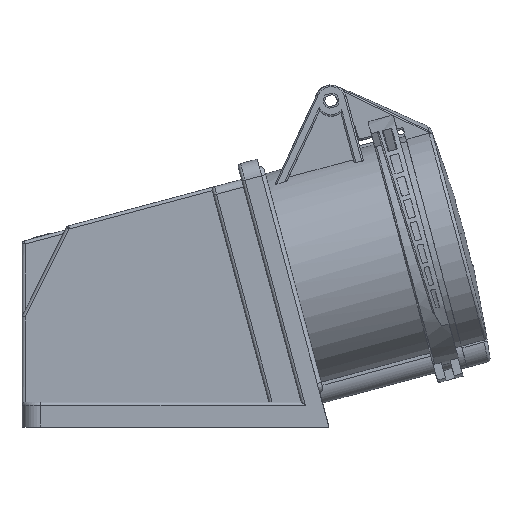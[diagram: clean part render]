
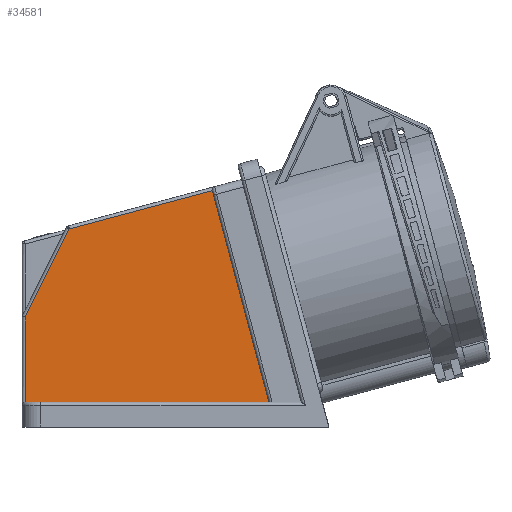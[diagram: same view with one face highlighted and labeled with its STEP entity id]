
A CAD part, left-side view. The second image highlights one B-rep face of the part: STEP entity #34581.
In plain terms, the highlighted planar face has unit normal (-1, 0, 0).
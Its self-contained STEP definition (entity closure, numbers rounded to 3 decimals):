
#20760 = VERTEX_POINT('',#20761);
#20761 = CARTESIAN_POINT('',(-28.5,-30.024,8.));
#20767 = EDGE_CURVE('',#20760,#20768,#20770,.T.);
#20768 = VERTEX_POINT('',#20769);
#20769 = CARTESIAN_POINT('',(-28.5,48.25,8.));
#20770 = LINE('',#20771,#20772);
#20771 = CARTESIAN_POINT('',(-28.5,-30.024,8.));
#20772 = VECTOR('',#20773,1.);
#20773 = DIRECTION('',(0.,1.,0.));
#20959 = EDGE_CURVE('',#20960,#20760,#20962,.T.);
#20960 = VERTEX_POINT('',#20961);
#20961 = CARTESIAN_POINT('',(-28.5,-11.83,75.901));
#20962 = LINE('',#20963,#20964);
#20963 = CARTESIAN_POINT('',(-28.5,-11.83,75.901));
#20964 = VECTOR('',#20965,1.);
#20965 = DIRECTION('',(0.,-0.259,-0.966));
#21460 = VERTEX_POINT('',#21461);
#21461 = CARTESIAN_POINT('',(-28.5,34.069,63.603));
#21483 = EDGE_CURVE('',#20960,#21460,#21484,.T.);
#21484 = LINE('',#21485,#21486);
#21485 = CARTESIAN_POINT('',(-28.5,-11.83,75.901));
#21486 = VECTOR('',#21487,1.);
#21487 = DIRECTION('',(0.,0.966,-0.259));
#34507 = EDGE_CURVE('',#21460,#34508,#34510,.T.);
#34508 = VERTEX_POINT('',#34509);
#34509 = CARTESIAN_POINT('',(-28.5,48.25,35.333));
#34510 = LINE('',#34511,#34512);
#34511 = CARTESIAN_POINT('',(-28.5,34.069,63.603));
#34512 = VECTOR('',#34513,1.);
#34513 = DIRECTION('',(0.,0.448,-0.894));
#34569 = EDGE_CURVE('',#34508,#20768,#34570,.T.);
#34570 = LINE('',#34571,#34572);
#34571 = CARTESIAN_POINT('',(-28.5,48.25,35.333));
#34572 = VECTOR('',#34573,1.);
#34573 = DIRECTION('',(0.,0.,-1.));
#34581 = ADVANCED_FACE('',(#34582),#34589,.F.);
#34582 = FACE_BOUND('',#34583,.T.);
#34583 = EDGE_LOOP('',(#34584,#34585,#34586,#34587,#34588));
#34584 = ORIENTED_EDGE('',*,*,#20767,.F.);
#34585 = ORIENTED_EDGE('',*,*,#20959,.F.);
#34586 = ORIENTED_EDGE('',*,*,#21483,.T.);
#34587 = ORIENTED_EDGE('',*,*,#34507,.T.);
#34588 = ORIENTED_EDGE('',*,*,#34569,.T.);
#34589 = PLANE('',#34590);
#34590 = AXIS2_PLACEMENT_3D('',#34591,#34592,#34593);
#34591 = CARTESIAN_POINT('',(-28.5,0.,0.));
#34592 = DIRECTION('',(1.,0.,0.));
#34593 = DIRECTION('',(0.,-1.,0.));
